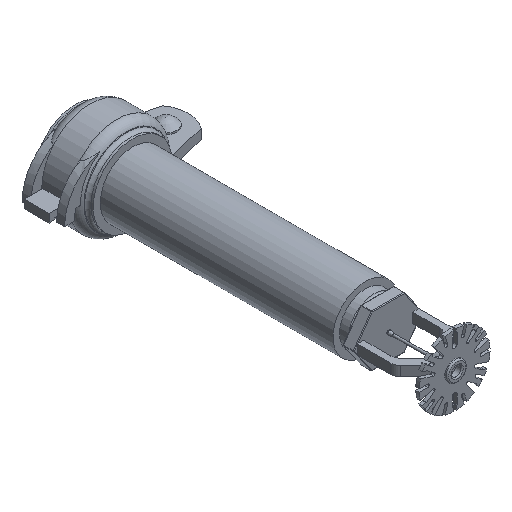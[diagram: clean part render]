
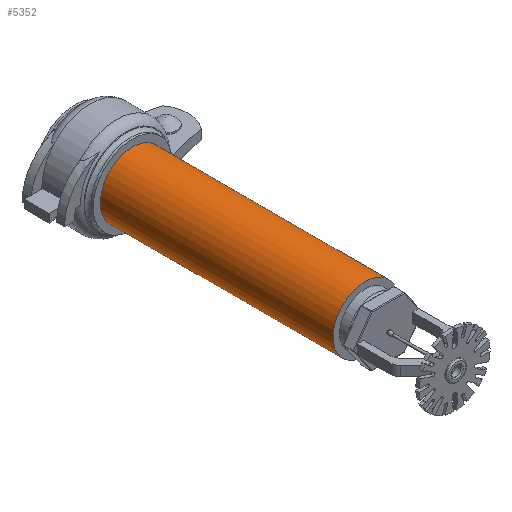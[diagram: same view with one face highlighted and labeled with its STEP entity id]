
A CAD part, isometric view. The second image highlights one B-rep face of the part: STEP entity #5352.
In plain terms, the highlighted cylindrical face has radius 16.701 mm (diameter 33.401 mm), a full revolution.
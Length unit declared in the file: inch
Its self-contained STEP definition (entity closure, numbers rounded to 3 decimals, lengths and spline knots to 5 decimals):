
#108=LINE('',#8005,#538);
#538=VECTOR('',#6377,0.6575);
#967=CYLINDRICAL_SURFACE('',#5745,0.6575);
#1111=FACE_OUTER_BOUND('',#1402,.T.);
#1402=EDGE_LOOP('',(#3359,#3360,#3361,#3362,#3363,#3364));
#1720=CIRCLE('',#5743,0.6575);
#1721=CIRCLE('',#5744,0.6575);
#1722=CIRCLE('',#5746,0.6575);
#1723=CIRCLE('',#5747,0.6575);
#2030=VERTEX_POINT('',#7995);
#2031=VERTEX_POINT('',#7996);
#2032=VERTEX_POINT('',#8001);
#2033=VERTEX_POINT('',#8002);
#2553=EDGE_CURVE('',#2030,#2031,#1720,.T.);
#2554=EDGE_CURVE('',#2031,#2030,#1721,.T.);
#2556=EDGE_CURVE('',#2032,#2033,#1722,.T.);
#2557=EDGE_CURVE('',#2033,#2032,#1723,.T.);
#2558=EDGE_CURVE('',#2033,#2030,#108,.T.);
#3359=ORIENTED_EDGE('',*,*,#2556,.F.);
#3360=ORIENTED_EDGE('',*,*,#2557,.F.);
#3361=ORIENTED_EDGE('',*,*,#2558,.T.);
#3362=ORIENTED_EDGE('',*,*,#2553,.T.);
#3363=ORIENTED_EDGE('',*,*,#2554,.T.);
#3364=ORIENTED_EDGE('',*,*,#2558,.F.);
#5352=ADVANCED_FACE('',(#1111),#967,.T.);
#5743=AXIS2_PLACEMENT_3D('',#7997,#6366,#6367);
#5744=AXIS2_PLACEMENT_3D('',#7998,#6368,#6369);
#5745=AXIS2_PLACEMENT_3D('',#8000,#6371,#6372);
#5746=AXIS2_PLACEMENT_3D('',#8003,#6373,#6374);
#5747=AXIS2_PLACEMENT_3D('',#8004,#6375,#6376);
#6366=DIRECTION('center_axis',(0.,-1.,0.));
#6367=DIRECTION('ref_axis',(-1.,0.,0.));
#6368=DIRECTION('center_axis',(0.,-1.,0.));
#6369=DIRECTION('ref_axis',(-1.,0.,0.));
#6371=DIRECTION('center_axis',(0.,-1.,0.));
#6372=DIRECTION('ref_axis',(-1.,0.,0.));
#6373=DIRECTION('center_axis',(0.,-1.,0.));
#6374=DIRECTION('ref_axis',(1.,0.,0.));
#6375=DIRECTION('center_axis',(0.,-1.,0.));
#6376=DIRECTION('ref_axis',(1.,0.,0.));
#6377=DIRECTION('',(0.,1.,0.));
#7995=CARTESIAN_POINT('',(0.6575,6.6125,0.));
#7996=CARTESIAN_POINT('',(-0.6575,6.6125,0.));
#7997=CARTESIAN_POINT('Origin',(0.,6.6125,0.));
#7998=CARTESIAN_POINT('Origin',(0.,6.6125,0.));
#8000=CARTESIAN_POINT('Origin',(0.,4.4875,0.));
#8001=CARTESIAN_POINT('',(-0.6575,1.8625,0.));
#8002=CARTESIAN_POINT('',(0.6575,1.8625,0.));
#8003=CARTESIAN_POINT('Origin',(0.,1.8625,0.));
#8004=CARTESIAN_POINT('Origin',(0.,1.8625,0.));
#8005=CARTESIAN_POINT('',(0.6575,4.4875,0.));
